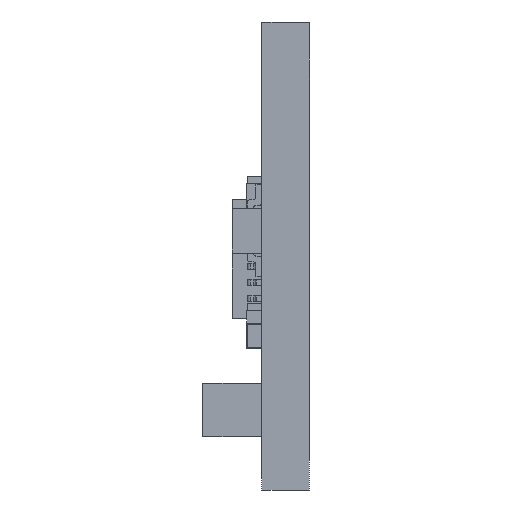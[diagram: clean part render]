
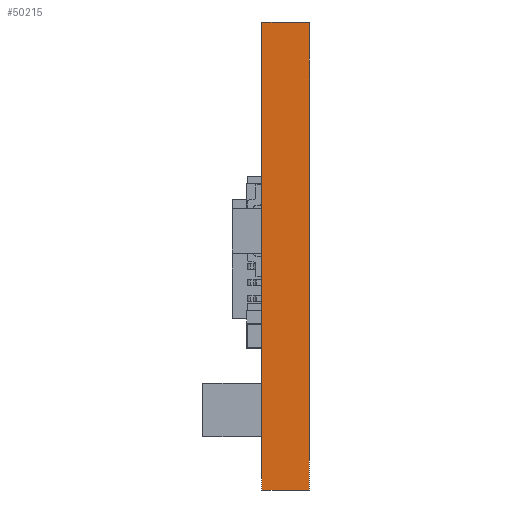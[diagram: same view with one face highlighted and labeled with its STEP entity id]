
A CAD part, left-side view. The second image highlights one B-rep face of the part: STEP entity #50215.
In plain terms, the highlighted planar face has unit normal (-1, 0, 0).
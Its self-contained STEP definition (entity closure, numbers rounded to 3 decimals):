
#2347=PLANE('',#52355);
#4797=FACE_OUTER_BOUND('',#7463,.T.);
#7463=EDGE_LOOP('',(#44641,#44642,#44643,#44644));
#8324=LINE('',#67424,#13559);
#9591=LINE('',#73994,#14826);
#12696=LINE('',#84947,#17931);
#12699=LINE('',#84952,#17934);
#13559=VECTOR('',#53706,10.);
#14826=VECTOR('',#55765,10.);
#17931=VECTOR('',#61816,10.);
#17934=VECTOR('',#61823,10.);
#20161=VERTEX_POINT('',#67422);
#20162=VERTEX_POINT('',#67423);
#21327=VERTEX_POINT('',#73992);
#21328=VERTEX_POINT('',#73993);
#25207=EDGE_CURVE('',#20161,#20162,#8324,.T.);
#26916=EDGE_CURVE('',#21327,#21328,#9591,.T.);
#30811=EDGE_CURVE('',#20161,#21327,#12696,.T.);
#30814=EDGE_CURVE('',#20162,#21328,#12699,.T.);
#44641=ORIENTED_EDGE('',*,*,#25207,.T.);
#44642=ORIENTED_EDGE('',*,*,#30814,.T.);
#44643=ORIENTED_EDGE('',*,*,#26916,.F.);
#44644=ORIENTED_EDGE('',*,*,#30811,.F.);
#50215=ADVANCED_FACE('',(#4797),#2347,.T.);
#52355=AXIS2_PLACEMENT_3D('',#84953,#61824,#61825);
#53706=DIRECTION('',(0.,0.,1.));
#55765=DIRECTION('',(0.,0.,1.));
#61816=DIRECTION('',(0.,1.,0.));
#61823=DIRECTION('',(0.,1.,0.));
#61824=DIRECTION('center_axis',(-1.,0.,0.));
#61825=DIRECTION('ref_axis',(0.,0.,1.));
#67422=CARTESIAN_POINT('',(-10.15,0.,-7.9));
#67423=CARTESIAN_POINT('',(-10.15,0.,7.9));
#67424=CARTESIAN_POINT('',(-10.15,0.,-7.9));
#73992=CARTESIAN_POINT('',(-10.15,1.6,-7.9));
#73993=CARTESIAN_POINT('',(-10.15,1.6,7.9));
#73994=CARTESIAN_POINT('',(-10.15,1.6,-7.9));
#84947=CARTESIAN_POINT('',(-10.15,0.,-7.9));
#84952=CARTESIAN_POINT('',(-10.15,0.,7.9));
#84953=CARTESIAN_POINT('Origin',(-10.15,0.,-7.9));
